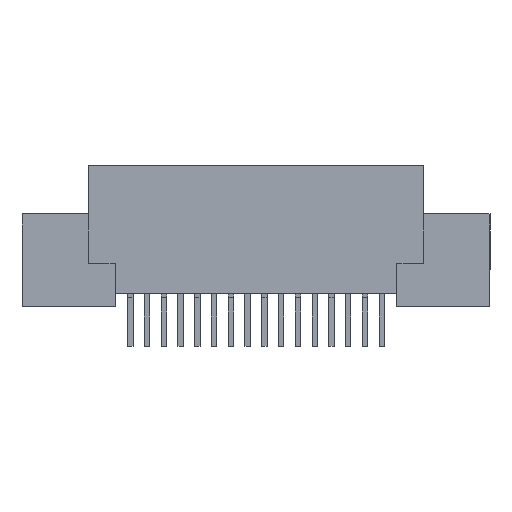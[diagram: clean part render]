
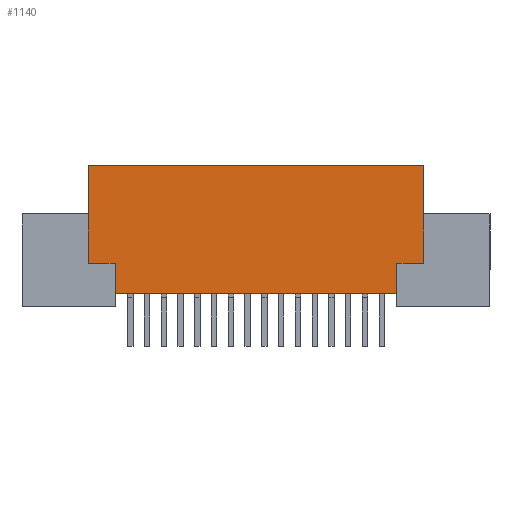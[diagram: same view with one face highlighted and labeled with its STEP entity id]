
A CAD part, front view. The second image highlights one B-rep face of the part: STEP entity #1140.
In plain terms, the highlighted planar face has unit normal (0, -1, 0).
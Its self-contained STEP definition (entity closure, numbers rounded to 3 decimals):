
#476=FACE_OUTER_BOUND('',#1798,.T.);
#1140=ADVANCED_FACE('',(#476),#1432,.T.);
#1432=PLANE('',#6565);
#1798=EDGE_LOOP('',(#2247,#2248,#2249,#2250,#2251,#2252,#2253,#2254,#2255,
#2256,#2257,#2258,#2259,#2260));
#2247=ORIENTED_EDGE('',*,*,#4729,.T.);
#2248=ORIENTED_EDGE('',*,*,#4730,.F.);
#2249=ORIENTED_EDGE('',*,*,#4731,.F.);
#2250=ORIENTED_EDGE('',*,*,#4732,.F.);
#2251=ORIENTED_EDGE('',*,*,#4727,.F.);
#2252=ORIENTED_EDGE('',*,*,#4733,.T.);
#2253=ORIENTED_EDGE('',*,*,#4734,.T.);
#2254=ORIENTED_EDGE('',*,*,#4686,.T.);
#2255=ORIENTED_EDGE('',*,*,#4735,.T.);
#2256=ORIENTED_EDGE('',*,*,#4736,.T.);
#2257=ORIENTED_EDGE('',*,*,#4737,.F.);
#2258=ORIENTED_EDGE('',*,*,#4738,.F.);
#2259=ORIENTED_EDGE('',*,*,#4739,.F.);
#2260=ORIENTED_EDGE('',*,*,#4740,.F.);
#4028=VERTEX_POINT('',#8193);
#4029=VERTEX_POINT('',#8195);
#4067=VERTEX_POINT('',#8288);
#4068=VERTEX_POINT('',#8290);
#4069=VERTEX_POINT('',#8297);
#4070=VERTEX_POINT('',#8298);
#4071=VERTEX_POINT('',#8300);
#4072=VERTEX_POINT('',#8302);
#4073=VERTEX_POINT('',#8305);
#4074=VERTEX_POINT('',#8308);
#4075=VERTEX_POINT('',#8310);
#4076=VERTEX_POINT('',#8312);
#4077=VERTEX_POINT('',#8314);
#4078=VERTEX_POINT('',#8316);
#4686=EDGE_CURVE('',#4029,#4028,#5599,.T.);
#4727=EDGE_CURVE('',#4067,#4068,#5636,.T.);
#4729=EDGE_CURVE('',#4069,#4070,#5637,.T.);
#4730=EDGE_CURVE('',#4071,#4070,#5638,.T.);
#4731=EDGE_CURVE('',#4072,#4071,#5639,.T.);
#4732=EDGE_CURVE('',#4068,#4072,#5640,.T.);
#4733=EDGE_CURVE('',#4067,#4073,#5641,.T.);
#4734=EDGE_CURVE('',#4073,#4029,#5642,.T.);
#4735=EDGE_CURVE('',#4028,#4074,#5643,.T.);
#4736=EDGE_CURVE('',#4074,#4075,#5644,.T.);
#4737=EDGE_CURVE('',#4076,#4075,#5645,.T.);
#4738=EDGE_CURVE('',#4077,#4076,#5646,.T.);
#4739=EDGE_CURVE('',#4078,#4077,#5647,.T.);
#4740=EDGE_CURVE('',#4069,#4078,#5648,.T.);
#5599=LINE('',#8194,#6134);
#5636=LINE('',#8289,#6171);
#5637=LINE('',#8296,#6172);
#5638=LINE('',#8299,#6173);
#5639=LINE('',#8301,#6174);
#5640=LINE('',#8303,#6175);
#5641=LINE('',#8304,#6176);
#5642=LINE('',#8306,#6177);
#5643=LINE('',#8307,#6178);
#5644=LINE('',#8309,#6179);
#5645=LINE('',#8311,#6180);
#5646=LINE('',#8313,#6181);
#5647=LINE('',#8315,#6182);
#5648=LINE('',#8317,#6183);
#6134=VECTOR('',#6964,1.);
#6171=VECTOR('',#7007,1.);
#6172=VECTOR('',#7010,1.);
#6173=VECTOR('',#7011,1.);
#6174=VECTOR('',#7012,1.);
#6175=VECTOR('',#7013,1.);
#6176=VECTOR('',#7014,1.);
#6177=VECTOR('',#7015,1.);
#6178=VECTOR('',#7016,1.);
#6179=VECTOR('',#7017,1.);
#6180=VECTOR('',#7018,1.);
#6181=VECTOR('',#7019,1.);
#6182=VECTOR('',#7020,1.);
#6183=VECTOR('',#7021,1.);
#6565=AXIS2_PLACEMENT_3D('',#8318,#7022,#7023);
#6964=DIRECTION('',(1.,0.,0.));
#7007=DIRECTION('',(0.,0.,1.));
#7010=DIRECTION('',(-1.,0.,0.));
#7011=DIRECTION('',(0.,0.,1.));
#7012=DIRECTION('',(0.,0.,1.));
#7013=DIRECTION('',(-1.,0.,0.));
#7014=DIRECTION('',(1.,0.,0.));
#7015=DIRECTION('',(0.,0.,1.));
#7016=DIRECTION('',(0.,0.,-1.));
#7017=DIRECTION('',(1.,0.,0.));
#7018=DIRECTION('',(0.,0.,-1.));
#7019=DIRECTION('',(-1.,0.,0.));
#7020=DIRECTION('',(0.,0.,-1.));
#7021=DIRECTION('',(0.,0.,-1.));
#7022=DIRECTION('',(0.,-1.,0.));
#7023=DIRECTION('',(1.,0.,0.));
#8193=CARTESIAN_POINT('',(25.9,-3.302,0.991));
#8194=CARTESIAN_POINT('',(-15.879,-3.302,0.991));
#8195=CARTESIAN_POINT('',(4.572,-3.302,0.991));
#8288=CARTESIAN_POINT('',(4.568,-3.302,0.));
#8289=CARTESIAN_POINT('',(4.568,-3.302,7.455));
#8290=CARTESIAN_POINT('',(4.568,-3.302,3.302));
#8296=CARTESIAN_POINT('',(-15.879,-3.302,10.693));
#8297=CARTESIAN_POINT('',(27.936,-3.302,10.693));
#8298=CARTESIAN_POINT('',(2.536,-3.302,10.693));
#8299=CARTESIAN_POINT('',(2.536,-3.302,5.207));
#8300=CARTESIAN_POINT('',(2.536,-3.302,7.036));
#8301=CARTESIAN_POINT('',(2.536,-3.302,1.435));
#8302=CARTESIAN_POINT('',(2.536,-3.302,3.302));
#8303=CARTESIAN_POINT('',(1.52,-3.302,3.302));
#8304=CARTESIAN_POINT('',(-15.879,-3.302,0.));
#8305=CARTESIAN_POINT('',(4.572,-3.302,0.));
#8306=CARTESIAN_POINT('',(4.572,-3.302,19.393));
#8307=CARTESIAN_POINT('',(25.9,-3.302,19.393));
#8308=CARTESIAN_POINT('',(25.9,-3.302,0.));
#8309=CARTESIAN_POINT('',(-38.739,-3.302,0.));
#8310=CARTESIAN_POINT('',(25.904,-3.302,0.));
#8311=CARTESIAN_POINT('',(25.904,-3.302,-9.157));
#8312=CARTESIAN_POINT('',(25.904,-3.302,3.302));
#8313=CARTESIAN_POINT('',(24.888,-3.302,3.302));
#8314=CARTESIAN_POINT('',(27.936,-3.302,3.302));
#8315=CARTESIAN_POINT('',(27.936,-3.302,1.435));
#8316=CARTESIAN_POINT('',(27.936,-3.302,7.036));
#8317=CARTESIAN_POINT('',(27.936,-3.302,5.207));
#8318=CARTESIAN_POINT('',(-15.879,-3.302,19.393));
